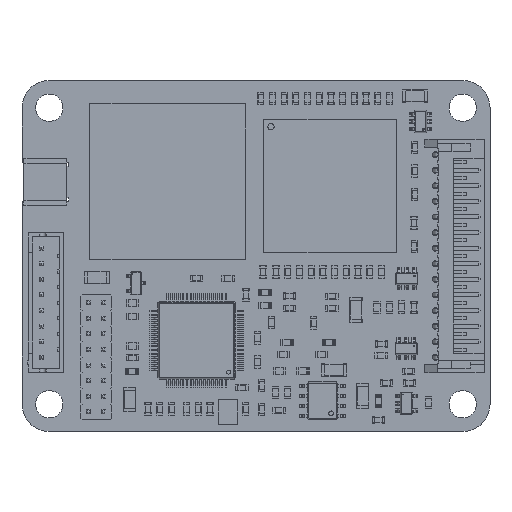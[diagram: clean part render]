
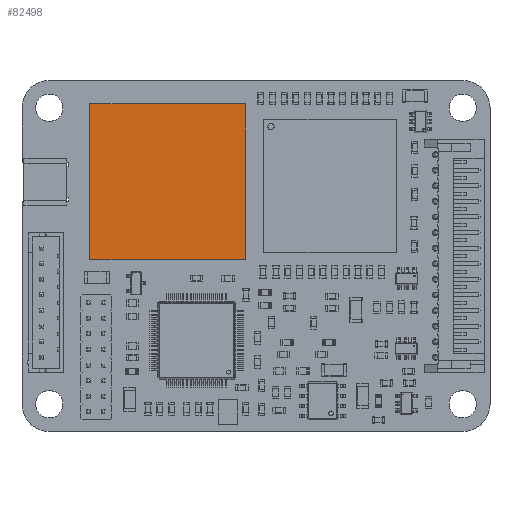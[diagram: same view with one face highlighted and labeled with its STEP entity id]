
A CAD part, top view. The second image highlights one B-rep face of the part: STEP entity #82498.
In plain terms, the highlighted planar face has unit normal (0, 0, 1).
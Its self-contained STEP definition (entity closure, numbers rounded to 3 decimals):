
#82369 = VERTEX_POINT('',#82370);
#82370 = CARTESIAN_POINT('',(-10.,10.,3.3));
#82376 = EDGE_CURVE('',#82369,#82377,#82379,.T.);
#82377 = VERTEX_POINT('',#82378);
#82378 = CARTESIAN_POINT('',(-10.,-10.,3.3));
#82379 = LINE('',#82380,#82381);
#82380 = CARTESIAN_POINT('',(-10.,10.,3.3));
#82381 = VECTOR('',#82382,1.);
#82382 = DIRECTION('',(0.,-1.,0.));
#82407 = EDGE_CURVE('',#82377,#82408,#82410,.T.);
#82408 = VERTEX_POINT('',#82409);
#82409 = CARTESIAN_POINT('',(10.,-10.,3.3));
#82410 = LINE('',#82411,#82412);
#82411 = CARTESIAN_POINT('',(-10.,-10.,3.3));
#82412 = VECTOR('',#82413,1.);
#82413 = DIRECTION('',(1.,0.,0.));
#82438 = EDGE_CURVE('',#82408,#82439,#82441,.T.);
#82439 = VERTEX_POINT('',#82440);
#82440 = CARTESIAN_POINT('',(10.,10.,3.3));
#82441 = LINE('',#82442,#82443);
#82442 = CARTESIAN_POINT('',(10.,-10.,3.3));
#82443 = VECTOR('',#82444,1.);
#82444 = DIRECTION('',(0.,1.,0.));
#82469 = EDGE_CURVE('',#82439,#82369,#82470,.T.);
#82470 = LINE('',#82471,#82472);
#82471 = CARTESIAN_POINT('',(10.,10.,3.3));
#82472 = VECTOR('',#82473,1.);
#82473 = DIRECTION('',(-1.,0.,0.));
#82498 = ADVANCED_FACE('',(#82499),#82505,.T.);
#82499 = FACE_BOUND('',#82500,.T.);
#82500 = EDGE_LOOP('',(#82501,#82502,#82503,#82504));
#82501 = ORIENTED_EDGE('',*,*,#82376,.T.);
#82502 = ORIENTED_EDGE('',*,*,#82407,.T.);
#82503 = ORIENTED_EDGE('',*,*,#82438,.T.);
#82504 = ORIENTED_EDGE('',*,*,#82469,.T.);
#82505 = PLANE('',#82506);
#82506 = AXIS2_PLACEMENT_3D('',#82507,#82508,#82509);
#82507 = CARTESIAN_POINT('',(0.,0.,3.3));
#82508 = DIRECTION('',(0.,0.,1.));
#82509 = DIRECTION('',(1.,0.,-0.));
